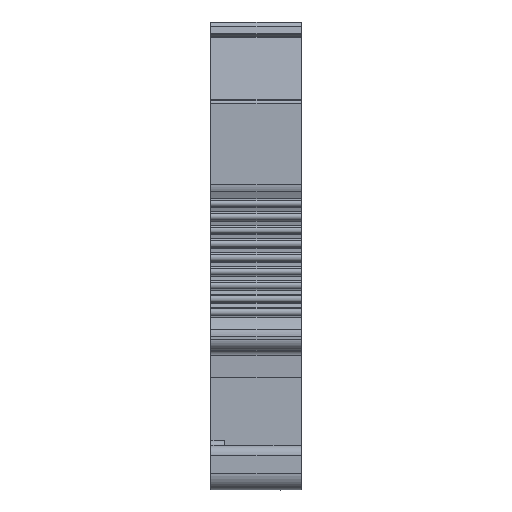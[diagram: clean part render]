
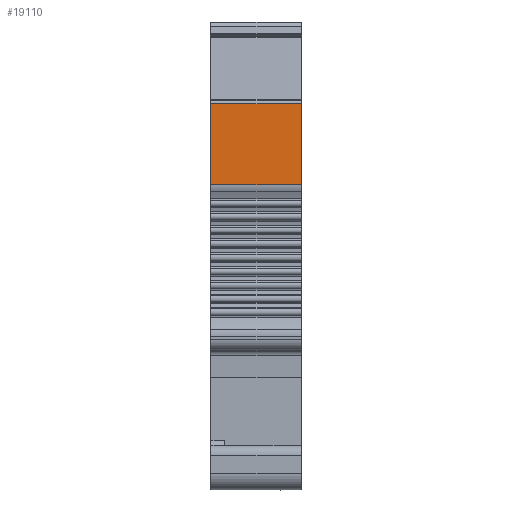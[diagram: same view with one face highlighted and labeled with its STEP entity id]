
A CAD part, front view. The second image highlights one B-rep face of the part: STEP entity #19110.
In plain terms, the highlighted planar face has unit normal (0, -1, 0).
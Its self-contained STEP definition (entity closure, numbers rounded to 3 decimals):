
#935=DIRECTION('',(0.,0.,-1.));
#936=VECTOR('',#935,7.312);
#937=CARTESIAN_POINT('',(-12.95,-115.09,34.846));
#938=LINE('',#937,#936);
#2451=DIRECTION('',(0.,0.,1.));
#2452=VECTOR('',#2451,7.312);
#2453=CARTESIAN_POINT('',(-21.1,-115.09,
27.533));
#2454=LINE('',#2453,#2452);
#4708=DIRECTION('',(-1.,0.,0.));
#4709=VECTOR('',#4708,8.15);
#4710=CARTESIAN_POINT('',(-12.95,-115.09,
27.533));
#4711=LINE('',#4710,#4709);
#4712=DIRECTION('',(1.,0.,0.));
#4713=VECTOR('',#4712,8.15);
#4714=CARTESIAN_POINT('',(-21.1,-115.09,
34.846));
#4715=LINE('',#4714,#4713);
#10928=CARTESIAN_POINT('',(-21.1,-115.09,
27.533));
#10929=VERTEX_POINT('',#10928);
#10930=CARTESIAN_POINT('',(-21.1,-115.09,
34.846));
#10931=VERTEX_POINT('',#10930);
#11388=CARTESIAN_POINT('',(-12.95,-115.09,
27.533));
#11389=VERTEX_POINT('',#11388);
#11390=CARTESIAN_POINT('',(-12.95,-115.09,
34.846));
#11391=VERTEX_POINT('',#11390);
#19098=CARTESIAN_POINT('',(-12.742,-115.09,
35.033));
#19099=DIRECTION('',(0.,1.,0.));
#19100=DIRECTION('',(0.,0.,-1.));
#19101=AXIS2_PLACEMENT_3D('',#19098,#19099,#19100);
#19102=PLANE('',#19101);
#19103=ORIENTED_EDGE('',*,*,#19092,.T.);
#19104=ORIENTED_EDGE('',*,*,#15313,.T.);
#19106=ORIENTED_EDGE('',*,*,#19105,.T.);
#19107=ORIENTED_EDGE('',*,*,#14251,.T.);
#19108=EDGE_LOOP('',(#19103,#19104,#19106,#19107));
#19109=FACE_OUTER_BOUND('',#19108,.F.);
#19110=ADVANCED_FACE('',(#19109),#19102,.F.);
#14251=EDGE_CURVE('',#11391,#11389,#938,.T.);
#15313=EDGE_CURVE('',#10929,#10931,#2454,.T.);
#19092=EDGE_CURVE('',#11389,#10929,#4711,.T.);
#19105=EDGE_CURVE('',#10931,#11391,#4715,.T.);
